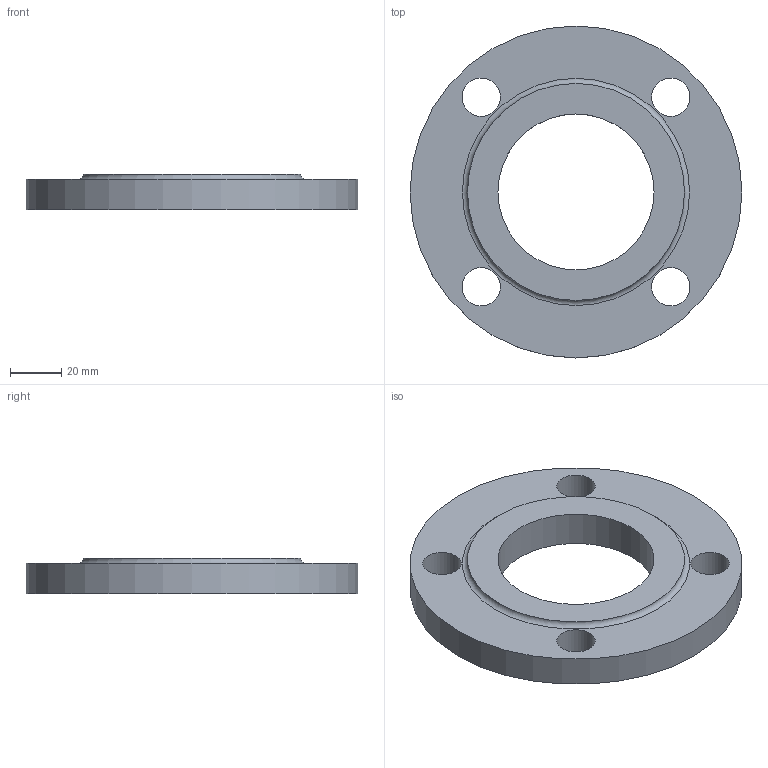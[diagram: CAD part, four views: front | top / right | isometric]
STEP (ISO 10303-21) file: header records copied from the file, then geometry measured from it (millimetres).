
FILE_DESCRIPTION(/* description */ (''),/* implementation_level */ '2;1');
FILE_NAME(/* name */ 'C:\Users\D\Documents\Inventor\HP\JIS\フランジ\JIS 5k sop rf\jis5k-sop-rf-50.stp',/* time_stamp */ '2024-09-12T17:02:59+09:00',/* author */ ('D'),/* organization */ (''),/* preprocessor_version */ 'ST-DEVELOPER v18',/* originating_system */ 'Autodesk Inventor 2020',/* authorisation */ '');
FILE_SCHEMA (('AUTOMOTIVE_DESIGN { 1 0 10303 214 3 1 1 }'));
Length unit declared in the file: millimetre
Products named in the file (1): jis5k-sop-rf-10
Bounding box: 130 x 130 x 14 mm (x, y, z)
Volume: 121328.3 mm3; surface area: 29425.4 mm2
Topology: 1 solids, 1 shells, 10 faces, 26 edges, 19 vertices
Faces by surface type: cylinder 6, plane 3, torus 1
Full cylindrical faces by diameter (mm): 15 x4, 61.1 x1, 130 x1
Entity records: 391 total; most frequent: DIRECTION 68, CARTESIAN_POINT 56, ORIENTED_EDGE 52, AXIS2_PLACEMENT_3D 31, EDGE_CURVE 26, EDGE_LOOP 21, CIRCLE 20, VERTEX_POINT 19
